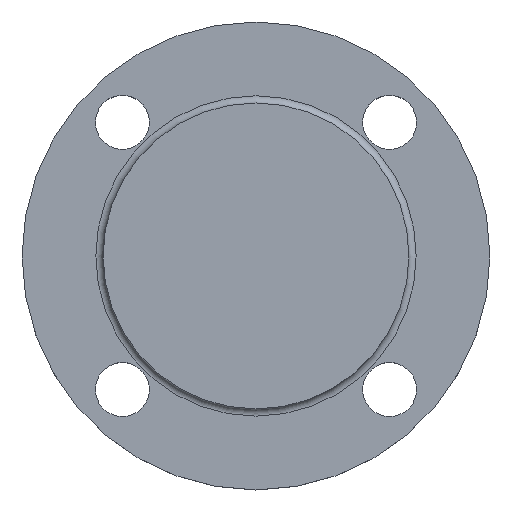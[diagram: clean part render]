
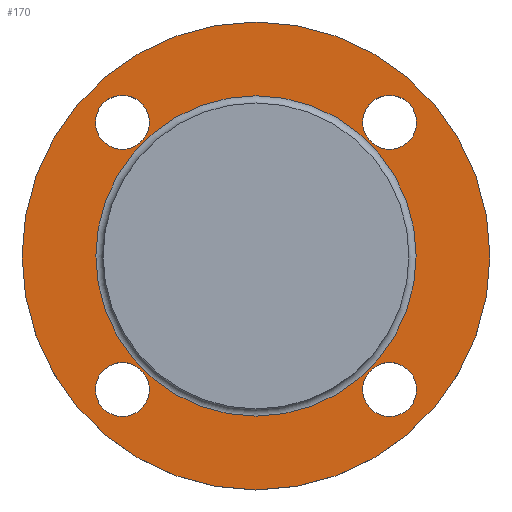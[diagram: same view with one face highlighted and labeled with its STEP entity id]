
A CAD part, top view. The second image highlights one B-rep face of the part: STEP entity #170.
In plain terms, the highlighted planar face has unit normal (0, 0, 1).
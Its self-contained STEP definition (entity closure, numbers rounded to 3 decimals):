
#30=FACE_BOUND('',#53,.T.);
#31=FACE_BOUND('',#54,.T.);
#32=FACE_BOUND('',#55,.T.);
#33=FACE_BOUND('',#56,.T.);
#34=FACE_BOUND('',#57,.T.);
#39=PLANE('',#204);
#43=FACE_OUTER_BOUND('',#52,.T.);
#52=EDGE_LOOP('',(#130,#131));
#53=EDGE_LOOP('',(#132));
#54=EDGE_LOOP('',(#133));
#55=EDGE_LOOP('',(#134));
#56=EDGE_LOOP('',(#135));
#57=EDGE_LOOP('',(#136,#137));
#69=CIRCLE('',#199,44.5);
#73=CIRCLE('',#203,44.5);
#74=CIRCLE('',#205,65.);
#75=CIRCLE('',#206,65.);
#76=CIRCLE('',#207,7.5);
#77=CIRCLE('',#208,7.5);
#78=CIRCLE('',#209,7.5);
#79=CIRCLE('',#210,7.5);
#86=VERTEX_POINT('',#285);
#87=VERTEX_POINT('',#286);
#90=VERTEX_POINT('',#295);
#91=VERTEX_POINT('',#296);
#92=VERTEX_POINT('',#299);
#93=VERTEX_POINT('',#301);
#94=VERTEX_POINT('',#303);
#95=VERTEX_POINT('',#305);
#102=EDGE_CURVE('',#86,#87,#69,.T.);
#106=EDGE_CURVE('',#87,#86,#73,.T.);
#107=EDGE_CURVE('',#90,#91,#74,.T.);
#108=EDGE_CURVE('',#91,#90,#75,.T.);
#109=EDGE_CURVE('',#92,#92,#76,.T.);
#110=EDGE_CURVE('',#93,#93,#77,.T.);
#111=EDGE_CURVE('',#94,#94,#78,.T.);
#112=EDGE_CURVE('',#95,#95,#79,.T.);
#130=ORIENTED_EDGE('',*,*,#107,.F.);
#131=ORIENTED_EDGE('',*,*,#108,.F.);
#132=ORIENTED_EDGE('',*,*,#109,.F.);
#133=ORIENTED_EDGE('',*,*,#110,.F.);
#134=ORIENTED_EDGE('',*,*,#111,.F.);
#135=ORIENTED_EDGE('',*,*,#112,.F.);
#136=ORIENTED_EDGE('',*,*,#102,.F.);
#137=ORIENTED_EDGE('',*,*,#106,.F.);
#170=ADVANCED_FACE('',(#43,#30,#31,#32,#33,#34),#39,.T.);
#199=AXIS2_PLACEMENT_3D('',#287,#228,#229);
#203=AXIS2_PLACEMENT_3D('',#293,#236,#237);
#204=AXIS2_PLACEMENT_3D('',#294,#238,#239);
#205=AXIS2_PLACEMENT_3D('',#297,#240,#241);
#206=AXIS2_PLACEMENT_3D('',#298,#242,#243);
#207=AXIS2_PLACEMENT_3D('',#300,#244,#245);
#208=AXIS2_PLACEMENT_3D('',#302,#246,#247);
#209=AXIS2_PLACEMENT_3D('',#304,#248,#249);
#210=AXIS2_PLACEMENT_3D('',#306,#250,#251);
#228=DIRECTION('center_axis',(0.,0.,1.));
#229=DIRECTION('ref_axis',(-1.,0.,0.));
#236=DIRECTION('center_axis',(0.,0.,1.));
#237=DIRECTION('ref_axis',(-1.,0.,0.));
#238=DIRECTION('center_axis',(0.,0.,1.));
#239=DIRECTION('ref_axis',(1.,0.,0.));
#240=DIRECTION('center_axis',(0.,0.,-1.));
#241=DIRECTION('ref_axis',(1.,0.,0.));
#242=DIRECTION('center_axis',(0.,0.,-1.));
#243=DIRECTION('ref_axis',(1.,0.,0.));
#244=DIRECTION('center_axis',(0.,0.,1.));
#245=DIRECTION('ref_axis',(1.,0.,0.));
#246=DIRECTION('center_axis',(0.,0.,1.));
#247=DIRECTION('ref_axis',(0.,1.,0.));
#248=DIRECTION('center_axis',(0.,0.,1.));
#249=DIRECTION('ref_axis',(-1.,0.,0.));
#250=DIRECTION('center_axis',(0.,0.,1.));
#251=DIRECTION('ref_axis',(0.,-1.,0.));
#285=CARTESIAN_POINT('',(44.5,0.,12.));
#286=CARTESIAN_POINT('',(-44.5,0.,12.));
#287=CARTESIAN_POINT('Origin',(0.,0.,12.));
#293=CARTESIAN_POINT('Origin',(0.,0.,12.));
#294=CARTESIAN_POINT('Origin',(0.,0.,12.));
#295=CARTESIAN_POINT('',(65.,0.,12.));
#296=CARTESIAN_POINT('',(-65.,0.,12.));
#297=CARTESIAN_POINT('Origin',(0.,0.,12.));
#298=CARTESIAN_POINT('Origin',(0.,0.,12.));
#299=CARTESIAN_POINT('',(-44.623,37.123,12.));
#300=CARTESIAN_POINT('Origin',(-37.123,37.123,12.));
#301=CARTESIAN_POINT('',(-37.123,-44.623,12.));
#302=CARTESIAN_POINT('Origin',(-37.123,-37.123,12.));
#303=CARTESIAN_POINT('',(44.623,-37.123,12.));
#304=CARTESIAN_POINT('Origin',(37.123,-37.123,12.));
#305=CARTESIAN_POINT('',(37.123,44.623,12.));
#306=CARTESIAN_POINT('Origin',(37.123,37.123,12.));
